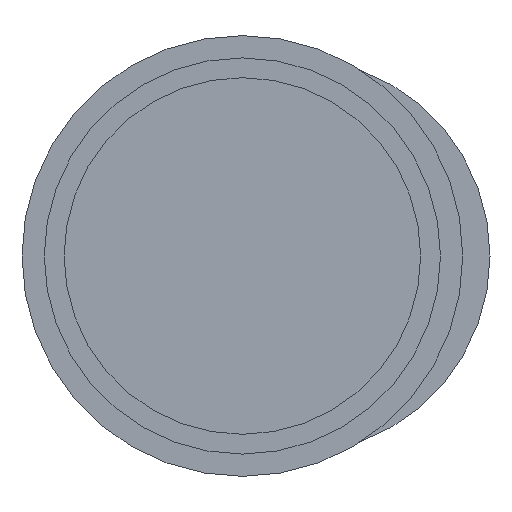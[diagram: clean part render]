
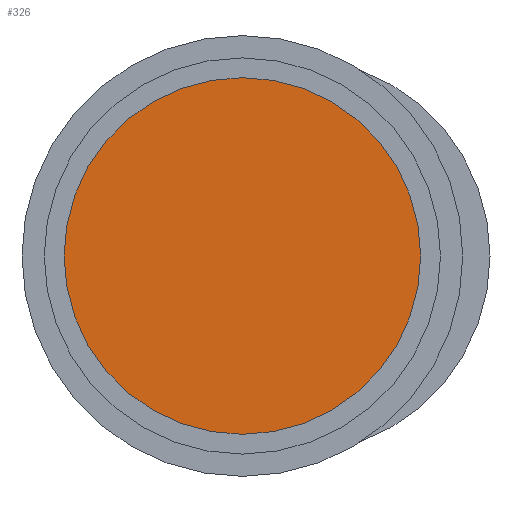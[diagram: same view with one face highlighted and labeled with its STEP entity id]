
A CAD part, left-side view. The second image highlights one B-rep face of the part: STEP entity #326.
In plain terms, the highlighted planar face has unit normal (-1, 0, 0).
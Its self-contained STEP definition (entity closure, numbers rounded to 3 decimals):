
#212=CARTESIAN_POINT('Vertex',(0.,0.,-36.)) ;
#215=CARTESIAN_POINT('Axis2P3D Location',(0.,0.,0.)) ;
#219=CARTESIAN_POINT('Vertex',(0.,36.,0.)) ;
#222=CARTESIAN_POINT('Axis2P3D Location',(0.,0.,0.)) ;
#226=CARTESIAN_POINT('Vertex',(0.,0.,36.)) ;
#248=CARTESIAN_POINT('Axis2P3D Location',(0.,0.,0.)) ;
#252=CARTESIAN_POINT('Vertex',(0.,-36.,0.)) ;
#255=CARTESIAN_POINT('Axis2P3D Location',(0.,0.,0.)) ;
#315=CARTESIAN_POINT('Axis2P3D Location',(0.,0.,0.)) ;
#216=DIRECTION('Axis2P3D Direction',(-1.,-0.,-0.)) ;
#223=DIRECTION('Axis2P3D Direction',(-1.,-0.,-0.)) ;
#249=DIRECTION('Axis2P3D Direction',(-1.,-0.,-0.)) ;
#256=DIRECTION('Axis2P3D Direction',(-1.,-0.,-0.)) ;
#316=DIRECTION('Axis2P3D Direction',(1.,0.,-0.)) ;
#317=DIRECTION('Axis2P3D XDirection',(-0.,0.,-1.)) ;
#217=AXIS2_PLACEMENT_3D('Circle Axis2P3D',#215,#216,$) ;
#224=AXIS2_PLACEMENT_3D('Circle Axis2P3D',#222,#223,$) ;
#250=AXIS2_PLACEMENT_3D('Circle Axis2P3D',#248,#249,$) ;
#257=AXIS2_PLACEMENT_3D('Circle Axis2P3D',#255,#256,$) ;
#318=AXIS2_PLACEMENT_3D('Plane Axis2P3D',#315,#316,#317) ;
#321=ORIENTED_EDGE('',*,*,#221,.F.) ;
#322=ORIENTED_EDGE('',*,*,#259,.F.) ;
#323=ORIENTED_EDGE('',*,*,#254,.F.) ;
#324=ORIENTED_EDGE('',*,*,#228,.F.) ;
#326=ADVANCED_FACE('395X-080-320/1',(#325),#319,.F.) ;
#218=CIRCLE('generated circle',#217,36.) ;
#225=CIRCLE('generated circle',#224,36.) ;
#251=CIRCLE('generated circle',#250,36.) ;
#258=CIRCLE('generated circle',#257,36.) ;
#221=EDGE_CURVE('',#213,#220,#218,.F.) ;
#228=EDGE_CURVE('',#220,#227,#225,.F.) ;
#254=EDGE_CURVE('',#227,#253,#251,.F.) ;
#259=EDGE_CURVE('',#253,#213,#258,.F.) ;
#320=EDGE_LOOP('',(#321,#322,#323,#324)) ;
#325=FACE_OUTER_BOUND('',#320,.T.) ;
#319=PLANE('Plane',#318) ;
#213=VERTEX_POINT('',#212) ;
#220=VERTEX_POINT('',#219) ;
#227=VERTEX_POINT('',#226) ;
#253=VERTEX_POINT('',#252) ;
